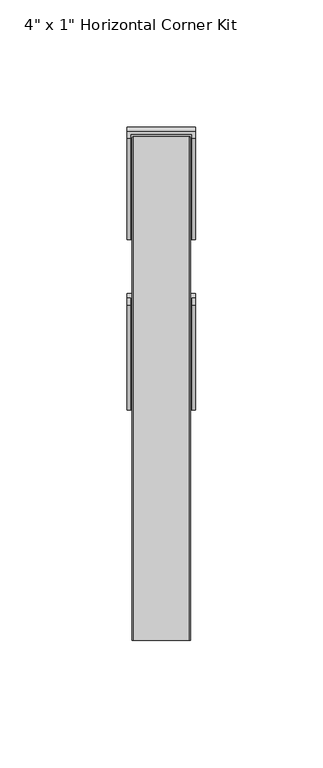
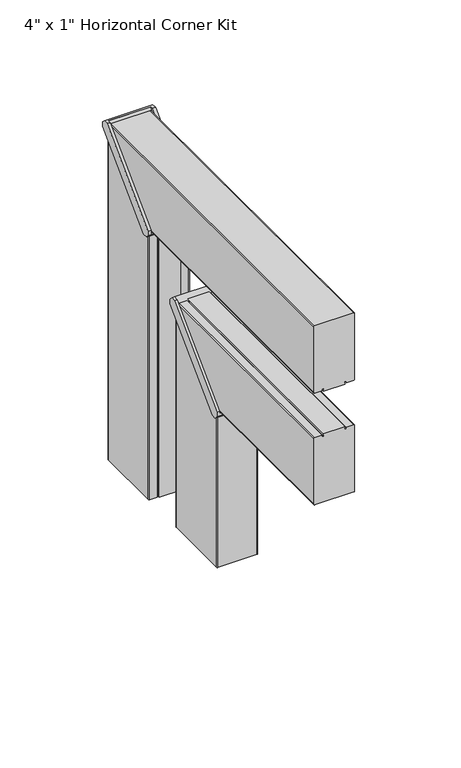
"""IFC4 building model written with IfcOpenShell, lengths in millimetres: proxy geometry."""

from ifc_helpers import new_model, si_unit, frame, origin, place, context, project, spatial, circle_curve, ellipse_curve, faceted_brep, source, transform, mapped, element, save
from ifc_brep_helpers import plane_surface, cylinder_surface, advanced_brep


def proxy_84fde4b8(model_context):
    return source(origin(), model_context, "Body", "SolidModel", [
        faceted_brep([(-13.5, -2.5, 2.0254834), (-13.5, 37.3145166, 41.84), (-13.5, 40.072233, 41.84), (-13.5, 41.84, 40.072233), (-13.5, 41.84, 37.3145166), (-13.5, 2.0254834, -2.5), (-13.5, -0.732233, -2.5), (-13.5, -2.5, -0.732233), (13.5, -2.5, 2.0254834), (13.5, -2.5, -0.732233), (13.5, -0.732233, -2.5), (13.5, 2.0254834, -2.5), (13.5, 41.84, 37.3145166), (13.5, 41.84, 40.072233), (13.5, 40.072233, 41.84), (13.5, 37.3145166, 41.84), (-12.0208786, -2.5, 2.0254834), (-12.0208786, 37.3145166, 41.84), (12.0208786, 37.3145166, 41.84), (12.0208786, -2.5, 2.0254834), (-12.0208786, 39.04, 41.84), (12.0208786, 39.04, 41.84), (12.0208786, 41.84, 37.3145166), (12.0208786, 41.84, 39.04), (-12.0208786, 41.84, 39.04), (-12.0208786, 41.84, 37.3145166), (-12.0208786, 2.0254834, -2.5), (12.0208786, 2.0254834, -2.5), (-12.0208786, -0.732233, -2.5), (12.0208786, -0.732233, -2.5), (12.0208786, -2.5, -0.732233), (-12.0208786, -2.5, -0.732233), (-12.0208786, 39.5561165, 41.3238835), (12.0208786, 39.5561165, 41.3238835), (12.0208786, 41.3238835, 39.5561165), (-12.0208786, 41.3238835, 39.5561165)], [[[0, 1, 2, 3, 4, 5, 6, 7]], [[8, 9, 10, 11, 12, 13, 14, 15]], [[1, 0, 16, 17]], [[8, 15, 18, 19]], [[2, 1, 17, 20, 21, 18, 15, 14]], [[3, 2, 14, 13]], [[4, 3, 13, 12, 22, 23, 24, 25]], [[5, 4, 25, 26]], [[12, 11, 27, 22]], [[6, 5, 26, 28]], [[11, 10, 29, 27]], [[7, 6, 28, 29, 10, 9, 30, 31]], [[0, 7, 31, 16]], [[9, 8, 19, 30]], [[32, 33, 21, 20]], [[34, 35, 24, 23]], [[31, 32, 20, 17, 16]], [[33, 30, 19, 18, 21]], [[33, 32, 31, 30]], [[29, 34, 23, 22, 27]], [[35, 28, 26, 25, 24]], [[35, 34, 29, 28]]]),
        faceted_brep([(-13.5, -28.1889803, -23.6634969), (-13.5, -25.4312638, -23.6634969), (-13.5, -23.6634969, -25.4312638), (-13.5, -23.6634969, -28.1889803), (-13.5, -64.8780135, -69.4034969), (-13.5, -67.6357299, -69.4034969), (-13.5, -69.4034969, -67.6357299), (-13.5, -69.4034969, -64.8780135), (13.5, -28.1889803, -23.6634969), (13.5, -69.4034969, -64.8780135), (13.5, -69.4034969, -67.6357299), (13.5, -67.6357299, -69.4034969), (13.5, -64.8780135, -69.4034969), (13.5, -23.6634969, -28.1889803), (13.5, -23.6634969, -25.4312638), (13.5, -25.4312638, -23.6634969), (-12.0208786, -28.1889803, -23.6634969), (-12.0208786, -25.4312638, -23.6634969), (12.0208786, -25.4312638, -23.6634969), (12.0208786, -28.1889803, -23.6634969), (12.0208786, -23.6634969, -25.4312638), (-12.0208786, -23.6634969, -25.4312638), (-12.0208786, -23.6634969, -28.1889803), (12.0208786, -23.6634969, -28.1889803), (-12.0208786, -64.8780135, -69.4034969), (12.0208786, -64.8780135, -69.4034969), (-12.0208786, -65.9794899, -69.4034969), (12.0208786, -65.9794899, -69.4034969), (12.0208786, -69.4034969, -64.8780135), (12.0208786, -69.4034969, -65.9794899), (-12.0208786, -69.4034969, -65.9794899), (-12.0208786, -69.4034969, -64.8780135), (12.0208786, -68.5753769, -66.8076099), (-12.0208786, -68.5753769, -66.8076099), (-12.0208786, -66.8076099, -68.5753769), (12.0208786, -66.8076099, -68.5753769)], [[[0, 1, 2, 3, 4, 5, 6, 7]], [[8, 9, 10, 11, 12, 13, 14, 15]], [[1, 0, 16, 17]], [[8, 15, 18, 19]], [[2, 1, 17, 18, 15, 14, 20, 21]], [[3, 2, 21, 22]], [[14, 13, 23, 20]], [[4, 3, 22, 24]], [[13, 12, 25, 23]], [[5, 4, 24, 26, 27, 25, 12, 11]], [[6, 5, 11, 10]], [[7, 6, 10, 9, 28, 29, 30, 31]], [[0, 7, 31, 16]], [[9, 8, 19, 28]], [[32, 33, 30, 29]], [[34, 35, 27, 26]], [[33, 17, 16, 31, 30]], [[18, 32, 29, 28, 19]], [[33, 32, 18, 17]], [[35, 20, 23, 25, 27]], [[21, 34, 26, 24, 22]], [[35, 34, 21, 20]]]),
        advanced_brep(
        [(-11.5, 39.94, -160.0398438), (-11.0, 40.44, -160.0398438), (11.0, 40.44, -160.0398438), (11.5, 39.94, -160.0398438), (11.5, 1.0, -160.0398438), (11.0, 0.5, -160.0398438), (6.75, 0.5, -160.0398438), (6.75, 1.5, -160.0398438), (5.7984177, 1.5, -160.0398438), (6.0, 0.0, -160.0398438), (-6.0, 0.0, -160.0398438), (-5.7984177, 1.5, -160.0398438), (-6.75, 1.5, -160.0398438), (-6.75, 0.5, -160.0398438), (-11.0, 0.5, -160.0398438), (-11.5, 1.0, -160.0398438), (-11.5, 39.94, 39.94), (-11.0, 40.44, 40.44), (11.0, 40.44, 40.44), (11.5, 39.94, 39.94), (11.5, 1.0, 1.0), (11.0, 0.5, 0.5), (6.75, 0.5, 0.5), (6.75, 1.5, 1.5), (5.7984177, 1.5, 1.5), (6.0, 0.0, 0.0), (-6.0, 0.0, 0.0), (-5.7984177, 1.5, 1.5), (-6.75, 1.5, 1.5), (-6.75, 0.5, 0.5), (-11.0, 0.5, 0.5), (-11.5, 1.0, 1.0)],
        [
            (0, 1, circle_curve(frame((-11.0, 39.94, -160.0398438), z_axis=(0.0, 0.0, -1.0), x_axis=(-1.0, 0.0, 0.0)), 0.5)),
            (1, 2),
            (2, 3, circle_curve(frame((11.0, 39.94, -160.0398438), z_axis=(0.0, 0.0, -1.0), x_axis=(-1.0, 0.0, 0.0)), 0.5)),
            (3, 4),
            (4, 5, circle_curve(frame((11.0, 1.0, -160.0398438), z_axis=(0.0, 0.0, -1.0), x_axis=(-1.0, 0.0, 0.0)), 0.5)),
            (5, 6),
            (6, 7),
            (7, 8),
            (8, 9),
            (9, 10),
            (10, 11),
            (11, 12),
            (12, 13),
            (13, 14),
            (14, 15, circle_curve(frame((-11.0, 1.0, -160.0398438), z_axis=(0.0, 0.0, -1.0), x_axis=(-1.0, 0.0, 0.0)), 0.5)),
            (15, 0),
            (0, 16),
            (16, 17, ellipse_curve(frame((-11.0, 39.94, 39.94), z_axis=(0.0, 0.707106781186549, -0.707106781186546), x_axis=(0.0, -0.707106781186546, -0.707106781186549)), 0.7071068, 0.5)),
            (17, 1),
            (17, 18),
            (18, 2),
            (18, 19, ellipse_curve(frame((11.0, 39.94, 39.94), z_axis=(0.0, 0.707106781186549, -0.707106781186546), x_axis=(0.0, -0.707106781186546, -0.707106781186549)), 0.7071068, 0.5)),
            (19, 3),
            (19, 20),
            (20, 4),
            (20, 21, ellipse_curve(frame((11.0, 1.0, 1.0), z_axis=(0.0, 0.707106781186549, -0.707106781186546), x_axis=(0.0, -0.707106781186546, -0.707106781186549)), 0.7071068, 0.5)),
            (21, 5),
            (21, 22),
            (22, 6),
            (22, 23),
            (23, 7),
            (23, 24),
            (24, 8),
            (24, 25),
            (25, 9),
            (25, 26),
            (26, 10),
            (26, 27),
            (27, 11),
            (27, 28),
            (28, 12),
            (28, 29),
            (29, 13),
            (29, 30),
            (30, 14),
            (30, 31, ellipse_curve(frame((-11.0, 1.0, 1.0), z_axis=(0.0, 0.707106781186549, -0.707106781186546), x_axis=(0.0, -0.707106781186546, -0.707106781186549)), 0.7071068, 0.5)),
            (31, 15),
            (31, 16),
        ],
        [
            plane_surface(frame((0.0, 0.0, -160.0398438), z_axis=(0.0, 0.0, -1.0), x_axis=(0.0, -1.0, 0.0))),
            cylinder_surface(frame((-11.0, 39.94, -160.0398438), z_axis=(0.0, 0.0, -1.0), x_axis=(-1.0, 0.0, 0.0)), 0.5),
            plane_surface(frame((-11.0, 40.44, -160.0398438), z_axis=(0.0, 1.0, 0.0), x_axis=(0.0, 0.0, 1.0))),
            cylinder_surface(frame((11.0, 39.94, -160.0398438), z_axis=(0.0, 0.0, -1.0), x_axis=(-1.0, 0.0, 0.0)), 0.5),
            plane_surface(frame((11.5, 39.94, -160.0398438), z_axis=(1.0, 0.0, 0.0), x_axis=(0.0, 0.0, 1.0))),
            cylinder_surface(frame((11.0, 1.0, -160.0398438), z_axis=(0.0, 0.0, -1.0), x_axis=(-1.0, 0.0, 0.0)), 0.5),
            plane_surface(frame((11.0, 0.5, -160.0398438), z_axis=(0.0, -1.0, 0.0), x_axis=(0.0, 0.0, 1.0))),
            plane_surface(frame((6.75, 0.5, -160.0398438), z_axis=(-1.0, 0.0, 0.0), x_axis=(0.0, 0.0, 1.0))),
            plane_surface(frame((6.75, 1.5, -160.0398438), z_axis=(0.0, -1.0, 0.0), x_axis=(0.0, 0.0, 1.0))),
            plane_surface(frame((5.7984177, 1.5, -160.0398438), z_axis=(0.9910904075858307, 0.1331908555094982, 0.0), x_axis=(0.0, 0.0, 1.0))),
            plane_surface(frame((6.0, 0.0, -160.0398438), z_axis=(0.0, -1.0, 0.0), x_axis=(0.0, 0.0, 1.0))),
            plane_surface(frame((-6.0, 0.0, -160.0398438), z_axis=(-0.9910904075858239, 0.133190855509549, 0.0), x_axis=(0.0, 0.0, 1.0))),
            plane_surface(frame((-5.7984177, 1.5, -160.0398438), z_axis=(0.0, -1.0, 0.0), x_axis=(0.0, 0.0, 1.0))),
            plane_surface(frame((-6.75, 1.5, -160.0398438), z_axis=(1.0, 0.0, 0.0), x_axis=(0.0, 0.0, 1.0))),
            plane_surface(frame((-6.75, 0.5, -160.0398438), z_axis=(0.0, -1.0, 0.0), x_axis=(0.0, 0.0, 1.0))),
            cylinder_surface(frame((-11.0, 1.0, -160.0398438), z_axis=(0.0, 0.0, -1.0), x_axis=(-1.0, 0.0, 0.0)), 0.5),
            plane_surface(frame((-11.5, 1.0, -160.0398438), z_axis=(-1.0, 0.0, 0.0), x_axis=(0.0, 0.0, 1.0))),
            plane_surface(frame((-11.5, 40.44, 40.44), z_axis=(0.0, -0.707106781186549, 0.707106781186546), x_axis=(1.0, 0.0, 0.0))),
        ],
        [
            (0, [[1, 2, 3, 4, 5, 6, 7, 8, 9, 10, 11, 12, 13, 14, 15, 16]]),
            (1, [[-1, 17, 18, 19]]),
            (2, [[-2, -19, 20, 21]]),
            (3, [[-3, -21, 22, 23]]),
            (4, [[-4, -23, 24, 25]]),
            (5, [[-5, -25, 26, 27]]),
            (6, [[-6, -27, 28, 29]]),
            (7, [[-7, -29, 30, 31]]),
            (8, [[-8, -31, 32, 33]]),
            (9, [[-9, -33, 34, 35]]),
            (10, [[-10, -35, 36, 37]]),
            (11, [[-11, -37, 38, 39]]),
            (12, [[-12, -39, 40, 41]]),
            (13, [[-13, -41, 42, 43]]),
            (14, [[-14, -43, 44, 45]]),
            (15, [[-15, -45, 46, 47]]),
            (16, [[-16, -47, 48, -17]]),
            (17, [[-18, -48, -46, -44, -42, -40, -38, -36, -34, -32, -30, -28, -26, -24, -22, -20]]),
        ],
    ),
        advanced_brep(
        [(-11.0, -25.9, -160.0398438), (-6.75, -25.9, -160.0398438), (-6.75, -26.9, -160.0398438), (-5.7984177, -26.9, -160.0398438), (-6.0, -25.4, -160.0398438), (6.0, -25.4, -160.0398438), (5.7984177, -26.9, -160.0398438), (6.75, -26.9, -160.0398438), (6.75, -25.9, -160.0398438), (11.0, -25.9, -160.0398438), (11.5, -26.4, -160.0398438), (11.5, -65.34, -160.0398438), (11.0, -65.84, -160.0398438), (-11.0, -65.84, -160.0398438), (-11.5, -65.34, -160.0398438), (-11.5, -26.4, -160.0398438), (-11.0, -25.9, -25.9), (-6.75, -25.9, -25.9), (-6.75, -26.9, -26.9), (-5.7984177, -26.9, -26.9), (-6.0, -25.4, -25.4), (6.0, -25.4, -25.4), (5.7984177, -26.9, -26.9), (6.75, -26.9, -26.9), (6.75, -25.9, -25.9), (11.0, -25.9, -25.9), (11.5, -26.4, -26.4), (11.5, -65.34, -65.34), (11.0, -65.84, -65.84), (-11.0, -65.84, -65.84), (-11.5, -65.34, -65.34), (-11.5, -26.4, -26.4)],
        [
            (0, 1),
            (1, 2),
            (2, 3),
            (3, 4),
            (4, 5),
            (5, 6),
            (6, 7),
            (7, 8),
            (8, 9),
            (9, 10, circle_curve(frame((11.0, -26.4, -160.0398438), z_axis=(0.0, 0.0, -1.0), x_axis=(-1.0, 0.0, 0.0)), 0.5)),
            (10, 11),
            (11, 12, circle_curve(frame((11.0, -65.34, -160.0398438), z_axis=(0.0, 0.0, -1.0), x_axis=(-1.0, 0.0, 0.0)), 0.5)),
            (12, 13),
            (13, 14, circle_curve(frame((-11.0, -65.34, -160.0398438), z_axis=(0.0, 0.0, -1.0), x_axis=(-1.0, 0.0, 0.0)), 0.5)),
            (14, 15),
            (15, 0, circle_curve(frame((-11.0, -26.4, -160.0398438), z_axis=(0.0, 0.0, -1.0), x_axis=(-1.0, 0.0, 0.0)), 0.5)),
            (0, 16),
            (16, 17),
            (17, 1),
            (17, 18),
            (18, 2),
            (18, 19),
            (19, 3),
            (19, 20),
            (20, 4),
            (20, 21),
            (21, 5),
            (21, 22),
            (22, 6),
            (22, 23),
            (23, 7),
            (23, 24),
            (24, 8),
            (24, 25),
            (25, 9),
            (25, 26, ellipse_curve(frame((11.0, -26.4, -26.4), z_axis=(0.0, 0.707106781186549, -0.707106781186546), x_axis=(0.0, -0.707106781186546, -0.707106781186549)), 0.7071068, 0.5)),
            (26, 10),
            (26, 27),
            (27, 11),
            (27, 28, ellipse_curve(frame((11.0, -65.34, -65.34), z_axis=(0.0, 0.707106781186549, -0.707106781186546), x_axis=(0.0, -0.707106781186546, -0.707106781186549)), 0.7071068, 0.5)),
            (28, 12),
            (28, 29),
            (29, 13),
            (29, 30, ellipse_curve(frame((-11.0, -65.34, -65.34), z_axis=(0.0, 0.707106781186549, -0.707106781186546), x_axis=(0.0, -0.707106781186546, -0.707106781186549)), 0.7071068, 0.5)),
            (30, 14),
            (30, 31),
            (31, 15),
            (31, 16, ellipse_curve(frame((-11.0, -26.4, -26.4), z_axis=(0.0, 0.707106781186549, -0.707106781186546), x_axis=(0.0, -0.707106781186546, -0.707106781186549)), 0.7071068, 0.5)),
        ],
        [
            plane_surface(frame((0.0, 0.0, -160.0398438), z_axis=(0.0, 0.0, -1.0), x_axis=(0.0, -1.0, 0.0))),
            plane_surface(frame((-11.0, -25.9, -160.0398438), z_axis=(0.0, 1.0, 0.0), x_axis=(0.0, 0.0, 1.0))),
            plane_surface(frame((-6.75, -25.9, -160.0398438), z_axis=(1.0, 0.0, 0.0), x_axis=(0.0, 0.0, 1.0))),
            plane_surface(frame((-6.75, -26.9, -160.0398438), z_axis=(0.0, 1.0, 0.0), x_axis=(0.0, 0.0, 1.0))),
            plane_surface(frame((-5.7984177, -26.9, -160.0398438), z_axis=(-0.9910904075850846, -0.1331908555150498, 0.0), x_axis=(0.0, 0.0, 1.0))),
            plane_surface(frame((-6.0, -25.4, -160.0398438), z_axis=(0.0, 1.0, 0.0), x_axis=(0.0, 0.0, 1.0))),
            plane_surface(frame((6.0, -25.4, -160.0398438), z_axis=(0.9910904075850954, -0.13319085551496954, 0.0), x_axis=(0.0, 0.0, 1.0))),
            plane_surface(frame((5.7984177, -26.9, -160.0398438), z_axis=(0.0, 1.0, 0.0), x_axis=(0.0, 0.0, 1.0))),
            plane_surface(frame((6.75, -26.9, -160.0398438), z_axis=(-1.0, 0.0, 0.0), x_axis=(0.0, 0.0, 1.0))),
            plane_surface(frame((6.75, -25.9, -160.0398438), z_axis=(0.0, 1.0, 0.0), x_axis=(0.0, 0.0, 1.0))),
            cylinder_surface(frame((11.0, -26.4, -160.0398438), z_axis=(0.0, 0.0, -1.0), x_axis=(-1.0, 0.0, 0.0)), 0.5),
            plane_surface(frame((11.5, -26.4, -160.0398438), z_axis=(1.0, 0.0, 0.0), x_axis=(0.0, 0.0, 1.0))),
            cylinder_surface(frame((11.0, -65.34, -160.0398438), z_axis=(0.0, 0.0, -1.0), x_axis=(-1.0, 0.0, 0.0)), 0.5),
            plane_surface(frame((11.0, -65.84, -160.0398438), z_axis=(0.0, -1.0, 0.0), x_axis=(0.0, 0.0, 1.0))),
            cylinder_surface(frame((-11.0, -65.34, -160.0398438), z_axis=(0.0, 0.0, -1.0), x_axis=(-1.0, 0.0, 0.0)), 0.5),
            plane_surface(frame((-11.5, -65.34, -160.0398438), z_axis=(-1.0, 0.0, 0.0), x_axis=(0.0, 0.0, 1.0))),
            cylinder_surface(frame((-11.0, -26.4, -160.0398438), z_axis=(0.0, 0.0, -1.0), x_axis=(-1.0, 0.0, 0.0)), 0.5),
            plane_surface(frame((-11.5, 40.44, 40.44), z_axis=(0.0, -0.707106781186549, 0.707106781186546), x_axis=(1.0, 0.0, 0.0))),
        ],
        [
            (0, [[1, 2, 3, 4, 5, 6, 7, 8, 9, 10, 11, 12, 13, 14, 15, 16]]),
            (1, [[-1, 17, 18, 19]]),
            (2, [[-2, -19, 20, 21]]),
            (3, [[-3, -21, 22, 23]]),
            (4, [[-4, -23, 24, 25]]),
            (5, [[-5, -25, 26, 27]]),
            (6, [[-6, -27, 28, 29]]),
            (7, [[-7, -29, 30, 31]]),
            (8, [[-8, -31, 32, 33]]),
            (9, [[-9, -33, 34, 35]]),
            (10, [[-10, -35, 36, 37]]),
            (11, [[-11, -37, 38, 39]]),
            (12, [[-12, -39, 40, 41]]),
            (13, [[-13, -41, 42, 43]]),
            (14, [[-14, -43, 44, 45]]),
            (15, [[-15, -45, 46, 47]]),
            (16, [[-16, -47, 48, -17]]),
            (17, [[-18, -48, -46, -44, -42, -40, -38, -36, -34, -32, -30, -28, -26, -24, -22, -20]]),
        ],
    ),
        advanced_brep(
        [(-11.5, -160.0398438, 39.94), (-11.5, -160.0398438, 1.0), (-11.0, -160.0398438, 0.5), (-6.75, -160.0398438, 0.5), (-6.75, -160.0398438, 1.5), (-5.7984177, -160.0398438, 1.5), (-6.0, -160.0398438, 0.0), (6.0, -160.0398438, 0.0), (5.7984177, -160.0398438, 1.5), (6.75, -160.0398438, 1.5), (6.75, -160.0398438, 0.5), (11.0, -160.0398438, 0.5), (11.5, -160.0398438, 1.0), (11.5, -160.0398438, 39.94), (11.0, -160.0398438, 40.44), (-11.0, -160.0398438, 40.44), (-11.5, 1.0, 1.0), (-11.0, 0.5, 0.5), (-6.75, 0.5, 0.5), (-6.75, 1.5, 1.5), (-5.7984177, 1.5, 1.5), (-6.0, 0.0, 0.0), (6.0, 0.0, 0.0), (5.7984177, 1.5, 1.5), (6.75, 1.5, 1.5), (6.75, 0.5, 0.5), (11.0, 0.5, 0.5), (11.5, 1.0, 1.0), (11.5, 39.94, 39.94), (11.0, 40.44, 40.44), (-11.0, 40.44, 40.44), (-11.5, 39.94, 39.94)],
        [
            (0, 1),
            (1, 2, circle_curve(frame((-11.0, -160.0398438, 1.0), z_axis=(0.0, -1.0, 0.0), x_axis=(-1.0, 0.0, 0.0)), 0.5)),
            (2, 3),
            (3, 4),
            (4, 5),
            (5, 6),
            (6, 7),
            (7, 8),
            (8, 9),
            (9, 10),
            (10, 11),
            (11, 12, circle_curve(frame((11.0, -160.0398438, 1.0), z_axis=(0.0, -1.0, 0.0), x_axis=(-1.0, 0.0, 0.0)), 0.5)),
            (12, 13),
            (13, 14, circle_curve(frame((11.0, -160.0398438, 39.94), z_axis=(0.0, -1.0, 0.0), x_axis=(-1.0, 0.0, 0.0)), 0.5)),
            (14, 15),
            (15, 0, circle_curve(frame((-11.0, -160.0398438, 39.94), z_axis=(0.0, -1.0, 0.0), x_axis=(-1.0, 0.0, 0.0)), 0.5)),
            (1, 16),
            (16, 17, ellipse_curve(frame((-11.0, 1.0, 1.0), z_axis=(0.0, -0.707106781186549, 0.707106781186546), x_axis=(0.0, -0.707106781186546, -0.707106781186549)), 0.7071068, 0.5)),
            (17, 2),
            (17, 18),
            (18, 3),
            (4, 19),
            (19, 20),
            (20, 5),
            (20, 21),
            (21, 6),
            (21, 22),
            (22, 7),
            (22, 23),
            (23, 8),
            (23, 24),
            (24, 9),
            (10, 25),
            (25, 26),
            (26, 11),
            (26, 27, ellipse_curve(frame((11.0, 1.0, 1.0), z_axis=(0.0, -0.707106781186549, 0.707106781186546), x_axis=(0.0, -0.707106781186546, -0.707106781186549)), 0.7071068, 0.5)),
            (27, 12),
            (13, 28),
            (28, 29, ellipse_curve(frame((11.0, 39.94, 39.94), z_axis=(0.0, -0.707106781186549, 0.707106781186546), x_axis=(0.0, -0.707106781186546, -0.707106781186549)), 0.7071068, 0.5)),
            (29, 14),
            (29, 30),
            (30, 15),
            (30, 31, ellipse_curve(frame((-11.0, 39.94, 39.94), z_axis=(0.0, -0.707106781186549, 0.707106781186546), x_axis=(0.0, -0.707106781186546, -0.707106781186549)), 0.7071068, 0.5)),
            (31, 0),
            (31, 16),
            (18, 19),
            (24, 25),
            (27, 28),
        ],
        [
            plane_surface(frame((0.0, -160.0398438, 0.0), z_axis=(0.0, -1.0, 0.0), x_axis=(0.0, 0.0, 1.0))),
            cylinder_surface(frame((-11.0, -160.0398438, 1.0), z_axis=(0.0, -1.0, 0.0), x_axis=(-1.0, 0.0, 0.0)), 0.5),
            plane_surface(frame((-11.0, -160.0398438, 0.5), z_axis=(0.0, 0.0, -1.0), x_axis=(0.0, 1.0, 0.0))),
            plane_surface(frame((-6.75, -160.0398438, 1.5), z_axis=(0.0, 0.0, -1.0), x_axis=(0.0, 1.0, 0.0))),
            plane_surface(frame((-5.7984177, -160.0398438, 1.5), z_axis=(-0.9910904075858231, 0.0, 0.1331908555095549), x_axis=(0.0, 1.0, 0.0))),
            plane_surface(frame((-6.0, -160.0398438, 0.0), z_axis=(0.0, 0.0, -1.0), x_axis=(0.0, 1.0, 0.0))),
            plane_surface(frame((6.0, -160.0398438, 0.0), z_axis=(0.9910904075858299, 0.0, 0.1331908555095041), x_axis=(0.0, 1.0, 0.0))),
            plane_surface(frame((5.7984177, -160.0398438, 1.5), z_axis=(0.0, 0.0, -1.0), x_axis=(0.0, 1.0, 0.0))),
            plane_surface(frame((6.75, -160.0398438, 0.5), z_axis=(0.0, 0.0, -1.0), x_axis=(0.0, 1.0, 0.0))),
            cylinder_surface(frame((11.0, -160.0398438, 1.0), z_axis=(0.0, -1.0, 0.0), x_axis=(-1.0, 0.0, 0.0)), 0.5),
            cylinder_surface(frame((11.0, -160.0398438, 39.94), z_axis=(0.0, -1.0, 0.0), x_axis=(-1.0, 0.0, 0.0)), 0.5),
            plane_surface(frame((11.0, -160.0398438, 40.44), z_axis=(0.0, 0.0, 1.0), x_axis=(0.0, 1.0, 0.0))),
            cylinder_surface(frame((-11.0, -160.0398438, 39.94), z_axis=(0.0, -1.0, 0.0), x_axis=(-1.0, 0.0, 0.0)), 0.5),
            plane_surface(frame((-11.5, -160.0398438, 39.94), z_axis=(-1.0, 0.0, 0.0), x_axis=(0.0, 1.0, 0.0))),
            plane_surface(frame((-6.75, -160.0398438, 0.5), z_axis=(1.0, 0.0, 0.0), x_axis=(0.0, 1.0, 0.0))),
            plane_surface(frame((6.75, -160.0398438, 1.5), z_axis=(-1.0, 0.0, 0.0), x_axis=(0.0, 1.0, 0.0))),
            plane_surface(frame((11.5, -160.0398438, 1.0), z_axis=(1.0, 0.0, 0.0), x_axis=(0.0, 1.0, 0.0))),
            plane_surface(frame((23.7, 40.44, 40.44), z_axis=(0.0, 0.707106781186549, -0.707106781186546), x_axis=(-1.0, 0.0, 0.0))),
        ],
        [
            (0, [[1, 2, 3, 4, 5, 6, 7, 8, 9, 10, 11, 12, 13, 14, 15, 16]]),
            (1, [[-2, 17, 18, 19]]),
            (2, [[-3, -19, 20, 21]]),
            (3, [[-5, 22, 23, 24]]),
            (4, [[-6, -24, 25, 26]]),
            (5, [[-7, -26, 27, 28]]),
            (6, [[-8, -28, 29, 30]]),
            (7, [[-9, -30, 31, 32]]),
            (8, [[-11, 33, 34, 35]]),
            (9, [[-12, -35, 36, 37]]),
            (10, [[-14, 38, 39, 40]]),
            (11, [[-15, -40, 41, 42]]),
            (12, [[-16, -42, 43, 44]]),
            (13, [[-1, -44, 45, -17]]),
            (14, [[-4, -21, 46, -22]]),
            (15, [[-10, -32, 47, -33]]),
            (16, [[-13, -37, 48, -38]]),
            (17, [[-45, -43, -41, -39, -48, -36, -34, -47, -31, -29, -27, -25, -23, -46, -20, -18]]),
        ],
    ),
        advanced_brep(
        [(-11.0, -160.0398438, -25.9), (-11.5, -160.0398438, -26.4), (-11.5, -160.0398438, -65.34), (-11.0, -160.0398438, -65.84), (11.0, -160.0398438, -65.84), (11.5, -160.0398438, -65.34), (11.5, -160.0398438, -26.4), (11.0, -160.0398438, -25.9), (6.75, -160.0398438, -25.9), (6.75, -160.0398438, -26.9), (5.7984177, -160.0398438, -26.9), (6.0, -160.0398438, -25.4), (-6.0, -160.0398438, -25.4), (-5.7984177, -160.0398438, -26.9), (-6.75, -160.0398438, -26.9), (-6.75, -160.0398438, -25.9), (-11.0, -25.9, -25.9), (-11.5, -26.4, -26.4), (-11.5, -65.34, -65.34), (-11.0, -65.84, -65.84), (11.0, -65.84, -65.84), (11.5, -65.34, -65.34), (11.5, -26.4, -26.4), (11.0, -25.9, -25.9), (6.75, -25.9, -25.9), (6.75, -26.9, -26.9), (5.7984177, -26.9, -26.9), (6.0, -25.4, -25.4), (-6.0, -25.4, -25.4), (-5.7984177, -26.9, -26.9), (-6.75, -26.9, -26.9), (-6.75, -25.9, -25.9)],
        [
            (0, 1, circle_curve(frame((-11.0, -160.0398438, -26.4), z_axis=(0.0, -1.0, 0.0), x_axis=(-1.0, 0.0, 0.0)), 0.5)),
            (1, 2),
            (2, 3, circle_curve(frame((-11.0, -160.0398438, -65.34), z_axis=(0.0, -1.0, 0.0), x_axis=(-1.0, 0.0, 0.0)), 0.5)),
            (3, 4),
            (4, 5, circle_curve(frame((11.0, -160.0398438, -65.34), z_axis=(0.0, -1.0, 0.0), x_axis=(-1.0, 0.0, 0.0)), 0.5)),
            (5, 6),
            (6, 7, circle_curve(frame((11.0, -160.0398438, -26.4), z_axis=(0.0, -1.0, 0.0), x_axis=(-1.0, 0.0, 0.0)), 0.5)),
            (7, 8),
            (8, 9),
            (9, 10),
            (10, 11),
            (11, 12),
            (12, 13),
            (13, 14),
            (14, 15),
            (15, 0),
            (0, 16),
            (16, 17, ellipse_curve(frame((-11.0, -26.4, -26.4), z_axis=(0.0, -0.707106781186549, 0.707106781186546), x_axis=(0.0, -0.707106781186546, -0.707106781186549)), 0.7071068, 0.5)),
            (17, 1),
            (2, 18),
            (18, 19, ellipse_curve(frame((-11.0, -65.34, -65.34), z_axis=(0.0, -0.707106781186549, 0.707106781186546), x_axis=(0.0, -0.707106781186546, -0.707106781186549)), 0.7071068, 0.5)),
            (19, 3),
            (19, 20),
            (20, 4),
            (20, 21, ellipse_curve(frame((11.0, -65.34, -65.34), z_axis=(0.0, -0.707106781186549, 0.707106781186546), x_axis=(0.0, -0.707106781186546, -0.707106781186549)), 0.7071068, 0.5)),
            (21, 5),
            (6, 22),
            (22, 23, ellipse_curve(frame((11.0, -26.4, -26.4), z_axis=(0.0, -0.707106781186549, 0.707106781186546), x_axis=(0.0, -0.707106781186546, -0.707106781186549)), 0.7071068, 0.5)),
            (23, 7),
            (23, 24),
            (24, 8),
            (9, 25),
            (25, 26),
            (26, 10),
            (26, 27),
            (27, 11),
            (27, 28),
            (28, 12),
            (28, 29),
            (29, 13),
            (29, 30),
            (30, 14),
            (15, 31),
            (31, 16),
            (17, 18),
            (21, 22),
            (24, 25),
            (30, 31),
        ],
        [
            plane_surface(frame((0.0, -160.0398438, 0.0), z_axis=(0.0, -1.0, 0.0), x_axis=(0.0, 0.0, 1.0))),
            cylinder_surface(frame((-11.0, -160.0398438, -26.4), z_axis=(0.0, -1.0, 0.0), x_axis=(-1.0, 0.0, 0.0)), 0.5),
            cylinder_surface(frame((-11.0, -160.0398438, -65.34), z_axis=(0.0, -1.0, 0.0), x_axis=(-1.0, 0.0, 0.0)), 0.5),
            plane_surface(frame((-11.0, -160.0398438, -65.84), z_axis=(0.0, 0.0, -1.0), x_axis=(0.0, 1.0, 0.0))),
            cylinder_surface(frame((11.0, -160.0398438, -65.34), z_axis=(0.0, -1.0, 0.0), x_axis=(-1.0, 0.0, 0.0)), 0.5),
            cylinder_surface(frame((11.0, -160.0398438, -26.4), z_axis=(0.0, -1.0, 0.0), x_axis=(-1.0, 0.0, 0.0)), 0.5),
            plane_surface(frame((11.0, -160.0398438, -25.9), z_axis=(0.0, 0.0, 1.0), x_axis=(0.0, 1.0, 0.0))),
            plane_surface(frame((6.75, -160.0398438, -26.9), z_axis=(0.0, 0.0, 1.0), x_axis=(0.0, 1.0, 0.0))),
            plane_surface(frame((5.7984177, -160.0398438, -26.9), z_axis=(0.9910904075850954, 0.0, -0.13319085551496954), x_axis=(0.0, 1.0, 0.0))),
            plane_surface(frame((6.0, -160.0398438, -25.4), z_axis=(0.0, 0.0, 1.0), x_axis=(0.0, 1.0, 0.0))),
            plane_surface(frame((-6.0, -160.0398438, -25.4), z_axis=(-0.9910904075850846, 0.0, -0.1331908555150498), x_axis=(0.0, 1.0, 0.0))),
            plane_surface(frame((-5.7984177, -160.0398438, -26.9), z_axis=(0.0, 0.0, 1.0), x_axis=(0.0, 1.0, 0.0))),
            plane_surface(frame((-6.75, -160.0398438, -25.9), z_axis=(0.0, 0.0, 1.0), x_axis=(0.0, 1.0, 0.0))),
            plane_surface(frame((-11.5, -160.0398438, -26.4), z_axis=(-1.0, 0.0, 0.0), x_axis=(0.0, 1.0, 0.0))),
            plane_surface(frame((11.5, -160.0398438, -65.34), z_axis=(1.0, 0.0, 0.0), x_axis=(0.0, 1.0, 0.0))),
            plane_surface(frame((6.75, -160.0398438, -25.9), z_axis=(-1.0, 0.0, 0.0), x_axis=(0.0, 1.0, 0.0))),
            plane_surface(frame((-6.75, -160.0398438, -26.9), z_axis=(1.0, 0.0, 0.0), x_axis=(0.0, 1.0, 0.0))),
            plane_surface(frame((23.7, 40.44, 40.44), z_axis=(0.0, 0.707106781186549, -0.707106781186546), x_axis=(-1.0, 0.0, 0.0))),
        ],
        [
            (0, [[1, 2, 3, 4, 5, 6, 7, 8, 9, 10, 11, 12, 13, 14, 15, 16]]),
            (1, [[-1, 17, 18, 19]]),
            (2, [[-3, 20, 21, 22]]),
            (3, [[-4, -22, 23, 24]]),
            (4, [[-5, -24, 25, 26]]),
            (5, [[-7, 27, 28, 29]]),
            (6, [[-8, -29, 30, 31]]),
            (7, [[-10, 32, 33, 34]]),
            (8, [[-11, -34, 35, 36]]),
            (9, [[-12, -36, 37, 38]]),
            (10, [[-13, -38, 39, 40]]),
            (11, [[-14, -40, 41, 42]]),
            (12, [[-16, 43, 44, -17]]),
            (13, [[-2, -19, 45, -20]]),
            (14, [[-6, -26, 46, -27]]),
            (15, [[-9, -31, 47, -32]]),
            (16, [[-15, -42, 48, -43]]),
            (17, [[-18, -44, -48, -41, -39, -37, -35, -33, -47, -30, -28, -46, -25, -23, -21, -45]]),
        ],
    ),
    ])


if __name__ == "__main__":
    model = new_model("IFC4")
    model_context = context("Model", 3, world=origin())
    ifc_project = project(units=[si_unit("LENGTHUNIT", "METRE", prefix="MILLI")], contexts=[model_context])
    site = spatial("IfcSite", under=ifc_project)
    building = spatial("IfcBuilding", under=site)
    placement = place(None, origin())
    proxy_shape = proxy_84fde4b8(model_context)
    element("IfcBuildingElementProxy", 1, Name="Frame-Teknion-Architectural_Complements-FCMZ_4x1_Mullion_Horizontal_Corner-R2018 : 4\" x 1\" Horizontal Corner Kit", ObjectType="Frame-Teknion-Architectural_Complements-FCMZ_4x1_Mullion_Horizontal_Corner-R2018 : 4\" x 1\" Horizontal Corner Kit", at=placement, inside=building, context=model_context, shape_type="MappedRepresentation", body=[
        mapped(proxy_shape, transform((0.0, 0.0, 0.0), x_axis=(1.0, 0.0, 0.0), y_axis=(0.0, 1.0, 0.0), z_axis=(0.0, 0.0, 1.0))),
    ])
    save(model, "model.ifc")
